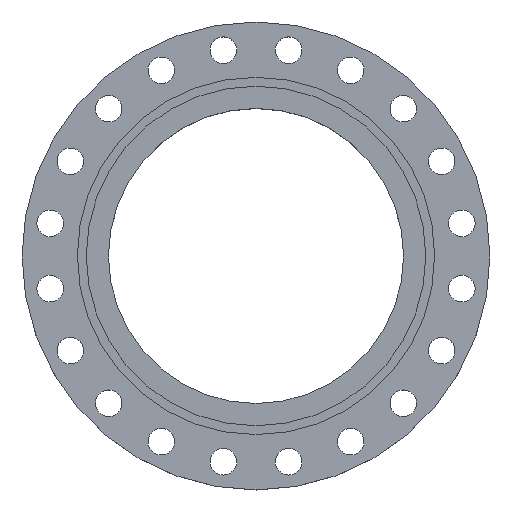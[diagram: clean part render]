
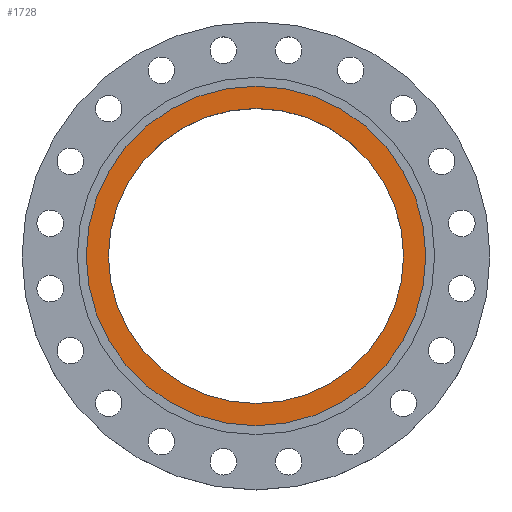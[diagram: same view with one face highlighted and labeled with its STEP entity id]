
A CAD part, top view. The second image highlights one B-rep face of the part: STEP entity #1728.
In plain terms, the highlighted planar face has unit normal (0, 0, 1).
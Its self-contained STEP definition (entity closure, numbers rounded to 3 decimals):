
#38 = ORIENTED_EDGE ( 'NONE', *, *, #1480, .F. ) ;
#41 = ORIENTED_EDGE ( 'NONE', *, *, #1535, .F. ) ;
#43 = ORIENTED_EDGE ( 'NONE', *, *, #593, .T. ) ;
#48 = ORIENTED_EDGE ( 'NONE', *, *, #388, .T. ) ;
#105 = VERTEX_POINT ( 'NONE', #1259 ) ;
#240 = CARTESIAN_POINT ( 'NONE',  ( 248.5, 0., -5.5 ) ) ;
#366 = CIRCLE ( 'NONE', #667, 248.5 ) ;
#388 = EDGE_CURVE ( 'NONE', #105, #1200, #1526, .T. ) ;
#422 = DIRECTION ( 'NONE',  ( 1., 0., 0. ) ) ;
#537 = DIRECTION ( 'NONE',  ( -1., 0., 0. ) ) ;
#565 = DIRECTION ( 'NONE',  ( -1., 0., 0. ) ) ;
#570 = CIRCLE ( 'NONE', #572, 248.5 ) ;
#572 = AXIS2_PLACEMENT_3D ( 'NONE', #1419, #1945, #537 ) ;
#593 = EDGE_CURVE ( 'NONE', #1200, #105, #2022, .T. ) ;
#667 = AXIS2_PLACEMENT_3D ( 'NONE', #1449, #1967, #565 ) ;
#711 = DIRECTION ( 'NONE',  ( 0., 0., -1. ) ) ;
#712 = CARTESIAN_POINT ( 'NONE',  ( 248.5, 0., -5.5 ) ) ;
#845 = VERTEX_POINT ( 'NONE', #240 ) ;
#868 = VERTEX_POINT ( 'NONE', #1972 ) ;
#894 = FACE_BOUND ( 'NONE', #1532, .T. ) ;
#1200 = VERTEX_POINT ( 'NONE', #1603 ) ;
#1259 = CARTESIAN_POINT ( 'NONE',  ( -216., 0., -5.5 ) ) ;
#1331 = CARTESIAN_POINT ( 'NONE',  ( 0., 0., -5.5 ) ) ;
#1384 = EDGE_LOOP ( 'NONE', ( #41, #38 ) ) ;
#1400 = DIRECTION ( 'NONE',  ( 1., 0., 0. ) ) ;
#1402 = DIRECTION ( 'NONE',  ( 0., 0., 1. ) ) ;
#1409 = AXIS2_PLACEMENT_3D ( 'NONE', #2036, #711, #1400 ) ;
#1419 = CARTESIAN_POINT ( 'NONE',  ( 0., 0., -5.5 ) ) ;
#1449 = CARTESIAN_POINT ( 'NONE',  ( 0., 0., -5.5 ) ) ;
#1480 = EDGE_CURVE ( 'NONE', #845, #868, #570, .T. ) ;
#1526 = CIRCLE ( 'NONE', #1527, 216. ) ;
#1527 = AXIS2_PLACEMENT_3D ( 'NONE', #1331, #1866, #422 ) ;
#1532 = EDGE_LOOP ( 'NONE', ( #48, #43 ) ) ;
#1535 = EDGE_CURVE ( 'NONE', #868, #845, #366, .T. ) ;
#1550 = FACE_OUTER_BOUND ( 'NONE', #1384, .T. ) ;
#1603 = CARTESIAN_POINT ( 'NONE',  ( 216., 0., -5.5 ) ) ;
#1728 = ADVANCED_FACE ( 'NONE', ( #894, #1550 ), #2037, .T. ) ;
#1866 = DIRECTION ( 'NONE',  ( 0., 0., -1. ) ) ;
#1926 = DIRECTION ( 'NONE',  ( 1., 0., 0. ) ) ;
#1945 = DIRECTION ( 'NONE',  ( 0., 0., -1. ) ) ;
#1967 = DIRECTION ( 'NONE',  ( 0., 0., -1. ) ) ;
#1972 = CARTESIAN_POINT ( 'NONE',  ( -248.5, 0., -5.5 ) ) ;
#2022 = CIRCLE ( 'NONE', #1409, 216. ) ;
#2036 = CARTESIAN_POINT ( 'NONE',  ( 0., 0., -5.5 ) ) ;
#2037 = PLANE ( 'NONE',  #2082 ) ;
#2082 = AXIS2_PLACEMENT_3D ( 'NONE', #712, #1402, #1926 ) ;
